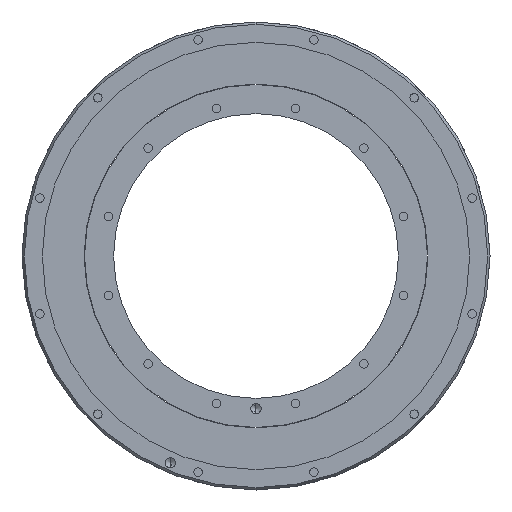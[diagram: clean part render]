
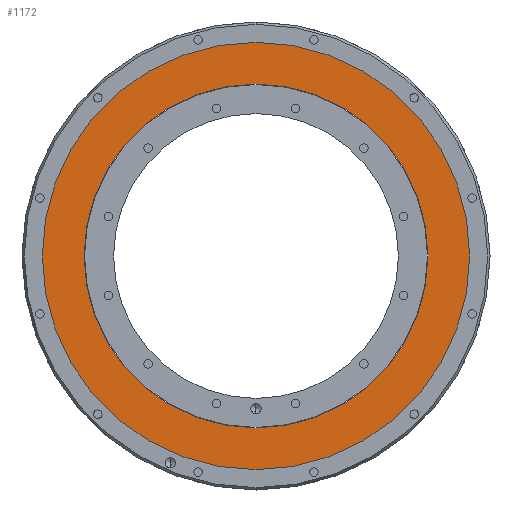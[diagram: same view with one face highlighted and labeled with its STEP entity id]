
A CAD part, front view. The second image highlights one B-rep face of the part: STEP entity #1172.
In plain terms, the highlighted planar face has unit normal (0, -1, 0).
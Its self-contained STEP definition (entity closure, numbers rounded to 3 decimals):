
#6 = CIRCLE ( 'NONE', #4711, 84.5 ) ;
#46 = DIRECTION ( 'NONE',  ( 0., -1., 0. ) ) ;
#54 = VERTEX_POINT ( 'NONE', #3164 ) ;
#581 = AXIS2_PLACEMENT_3D ( 'NONE', #5582, #3407, #1871 ) ;
#1023 = CIRCLE ( 'NONE', #581, 84.5 ) ;
#1172 = ADVANCED_FACE ( 'NONE', ( #5809, #1366 ), #6517, .T. ) ;
#1215 = EDGE_CURVE ( 'NONE', #3156, #54, #1940, .T. ) ;
#1223 = EDGE_CURVE ( 'NONE', #5344, #4731, #1023, .T. ) ;
#1343 = AXIS2_PLACEMENT_3D ( 'NONE', #3235, #46, #4317 ) ;
#1366 = FACE_BOUND ( 'NONE', #2229, .T. ) ;
#1829 = CARTESIAN_POINT ( 'NONE',  ( 0., 1., 0. ) ) ;
#1871 = DIRECTION ( 'NONE',  ( 0., 0., -1. ) ) ;
#1940 = CIRCLE ( 'NONE', #3338, 105. ) ;
#2229 = EDGE_LOOP ( 'NONE', ( #4246, #3208 ) ) ;
#2271 = ORIENTED_EDGE ( 'NONE', *, *, #4592, .T. ) ;
#2507 = ORIENTED_EDGE ( 'NONE', *, *, #1215, .T. ) ;
#2598 = DIRECTION ( 'NONE',  ( 0., -1., 0. ) ) ;
#2706 = EDGE_CURVE ( 'NONE', #4731, #5344, #6, .T. ) ;
#3104 = DIRECTION ( 'NONE',  ( 0., 0., -1. ) ) ;
#3156 = VERTEX_POINT ( 'NONE', #5553 ) ;
#3164 = CARTESIAN_POINT ( 'NONE',  ( 0., 1., -105. ) ) ;
#3208 = ORIENTED_EDGE ( 'NONE', *, *, #1223, .F. ) ;
#3235 = CARTESIAN_POINT ( 'NONE',  ( 0., 1., 0. ) ) ;
#3338 = AXIS2_PLACEMENT_3D ( 'NONE', #1829, #6624, #3447 ) ;
#3407 = DIRECTION ( 'NONE',  ( 0., -1., 0. ) ) ;
#3447 = DIRECTION ( 'NONE',  ( 0., 0., -1. ) ) ;
#3694 = CARTESIAN_POINT ( 'NONE',  ( 0., 1., 84.5 ) ) ;
#4246 = ORIENTED_EDGE ( 'NONE', *, *, #2706, .F. ) ;
#4317 = DIRECTION ( 'NONE',  ( 0., 0., -1. ) ) ;
#4353 = DIRECTION ( 'NONE',  ( 0., 0., -1. ) ) ;
#4403 = DIRECTION ( 'NONE',  ( 0., -1., 0. ) ) ;
#4418 = CIRCLE ( 'NONE', #1343, 105. ) ;
#4592 = EDGE_CURVE ( 'NONE', #54, #3156, #4418, .T. ) ;
#4711 = AXIS2_PLACEMENT_3D ( 'NONE', #6370, #2598, #3104 ) ;
#4731 = VERTEX_POINT ( 'NONE', #5355 ) ;
#4903 = CARTESIAN_POINT ( 'NONE',  ( 84.5, 1., 0. ) ) ;
#4988 = EDGE_LOOP ( 'NONE', ( #2271, #2507 ) ) ;
#5344 = VERTEX_POINT ( 'NONE', #3694 ) ;
#5355 = CARTESIAN_POINT ( 'NONE',  ( 0., 1., -84.5 ) ) ;
#5386 = AXIS2_PLACEMENT_3D ( 'NONE', #4903, #4403, #4353 ) ;
#5553 = CARTESIAN_POINT ( 'NONE',  ( 0., 1., 105. ) ) ;
#5582 = CARTESIAN_POINT ( 'NONE',  ( 0., 1., 0. ) ) ;
#5809 = FACE_OUTER_BOUND ( 'NONE', #4988, .T. ) ;
#6370 = CARTESIAN_POINT ( 'NONE',  ( 0., 1., 0. ) ) ;
#6517 = PLANE ( 'NONE',  #5386 ) ;
#6624 = DIRECTION ( 'NONE',  ( 0., -1., 0. ) ) ;
